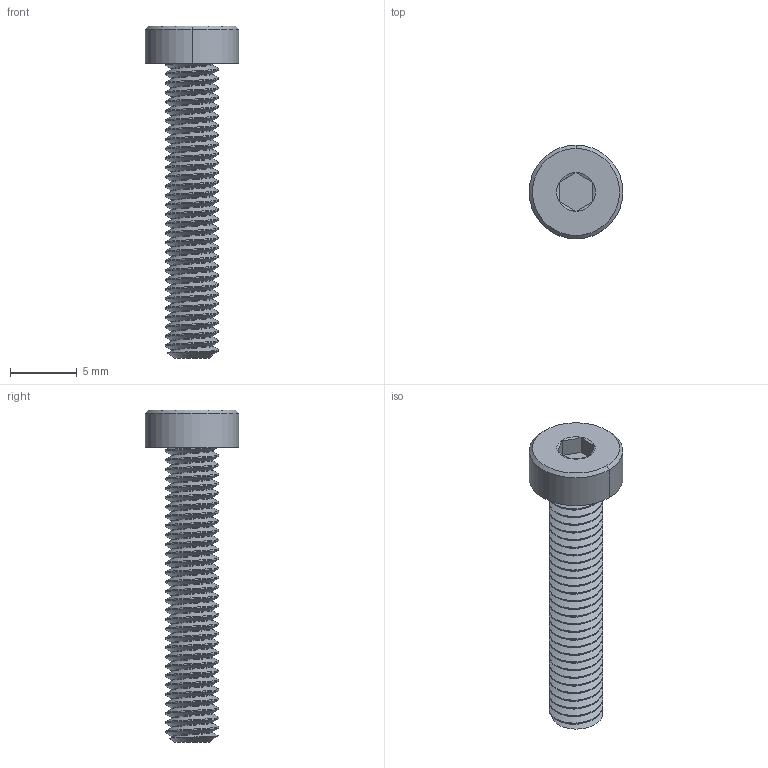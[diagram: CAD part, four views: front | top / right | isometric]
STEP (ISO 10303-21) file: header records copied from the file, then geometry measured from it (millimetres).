
FILE_DESCRIPTION (( 'STEP AP203' ), '1' );
FILE_NAME ('2804-0004-0022.STEP', '2017-04-05T21:31:30', ( '' ), ( '' ), 'SwSTEP 2.0', 'SolidWorks 2016', '' );
FILE_SCHEMA (( 'CONFIG_CONTROL_DESIGN' ));
Length unit declared in the file: inch
Products named in the file (1): 2804-0004-0022
Bounding box: 7 x 7 x 24.8 mm (x, y, z)
Volume: 317.5 mm3; surface area: 570.6 mm2
Topology: 1 solids, 1 shells, 151 faces, 426 edges, 279 vertices
Faces by surface type: cylinder 129, cone 10, plane 10, bspline 2
Entity records: 10396 total; most frequent: CARTESIAN_POINT 7184, ORIENTED_EDGE 852, DIRECTION 481, EDGE_CURVE 426, VERTEX_POINT 279, AXIS2_PLACEMENT_3D 169, EDGE_LOOP 153, FACE_OUTER_BOUND 151
